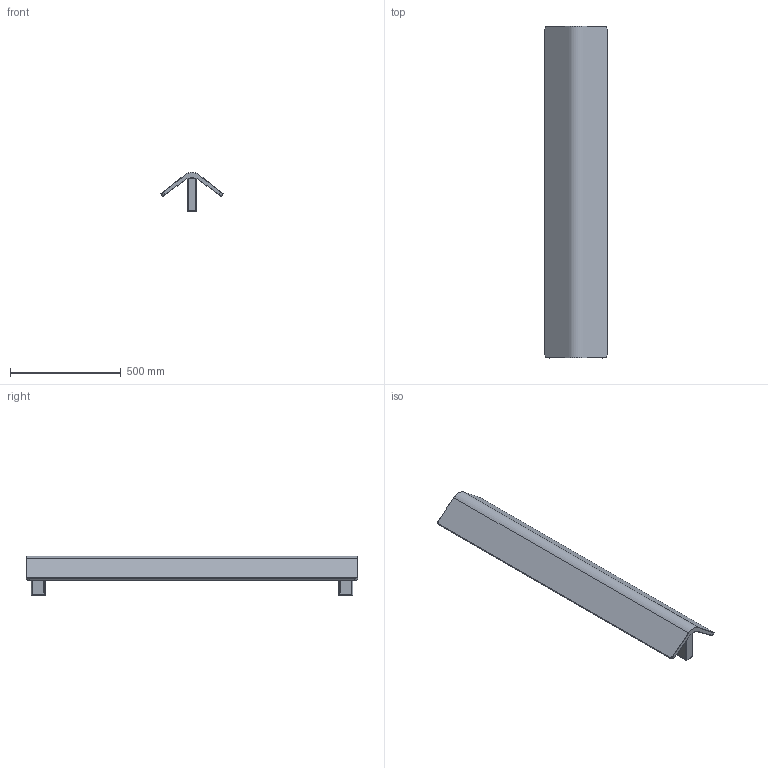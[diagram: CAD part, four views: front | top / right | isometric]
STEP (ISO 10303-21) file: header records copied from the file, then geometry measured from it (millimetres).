
FILE_DESCRIPTION(/* description */ (''),/* implementation_level */ '2;1');
FILE_NAME(/* name */ 'Vika Wall absorber horizontal.stp',/* time_stamp */ '2025-03-04T07:45:07+01:00',/* author */ ('ergr'),/* organization */ (''),/* preprocessor_version */ 'ST-DEVELOPER v19.2',/* originating_system */ 'Autodesk Inventor 2023',/* authorisation */ '');
FILE_SCHEMA (('AUTOMOTIVE_DESIGN { 1 0 10303 214 3 1 1 }'));
Length unit declared in the file: millimetre
Products named in the file (1): Vika wall_koncept1_utan belysning_Simplify_1
Bounding box: 280.34 x 1500 x 178.91 mm (x, y, z)
Volume: 9280133 mm3; surface area: 1185924.1 mm2
Topology: 1 solids, 1 shells, 152 faces, 436 edges, 272 vertices
Faces by surface type: plane 98, cylinder 42, torus 8, bspline 4
Entity records: 5424 total; most frequent: CARTESIAN_POINT 1113, ORIENTED_EDGE 872, DIRECTION 862, EDGE_CURVE 436, AXIS2_PLACEMENT_3D 289, LINE 284, VECTOR 284, VERTEX_POINT 272
